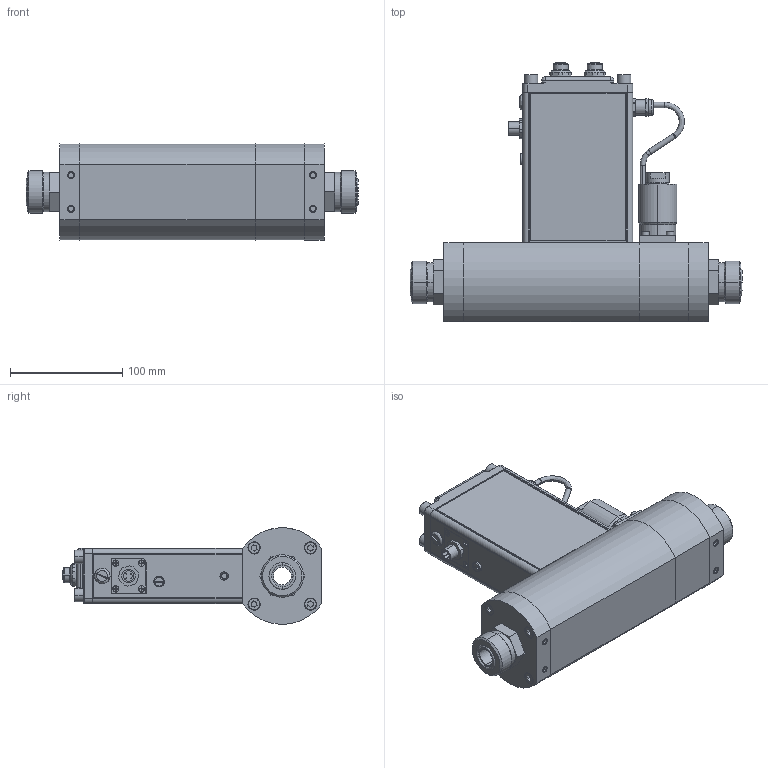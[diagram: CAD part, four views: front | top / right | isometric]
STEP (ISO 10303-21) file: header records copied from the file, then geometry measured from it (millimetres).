
FILE_DESCRIPTION (( 'STEP AP203' ), '1' );
FILE_NAME ('SLAMF53-7-2L-3-A-REVB.STEP', '2023-07-06T13:12:20', ( '' ), ( '' ), 'SwSTEP 2.0', 'SolidWorks 2020', '' );
FILE_SCHEMA (( 'CONFIG_CONTROL_DESIGN' ));
Length unit declared in the file: inch
Products named in the file (1): SLAMF53-7-2L-3-A-REVB
Bounding box: 295.69 x 231.16 x 85.69 mm (x, y, z)
Volume: 642340.9 mm3; surface area: 328738.2 mm2
Topology: 53 solids, 55 shells, 1595 faces, 3815 edges, 2439 vertices
Faces by surface type: plane 629, cylinder 627, cone 244, bspline 95
Entity records: 49790 total; most frequent: CARTESIAN_POINT 11868, DIRECTION 8199, ORIENTED_EDGE 7594, EDGE_CURVE 3797, AXIS2_PLACEMENT_3D 3150, VERTEX_POINT 2439, VECTOR 1899, LINE 1899
